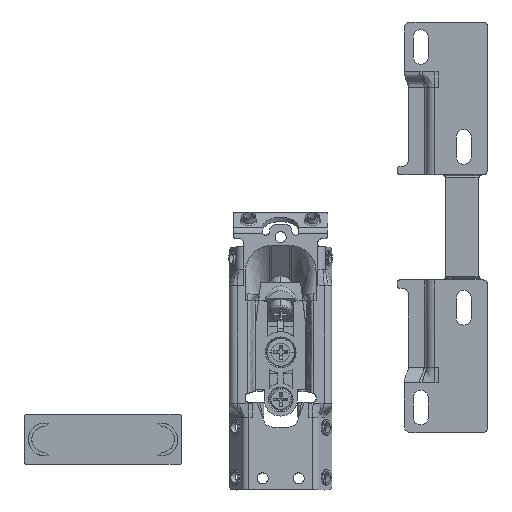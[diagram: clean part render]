
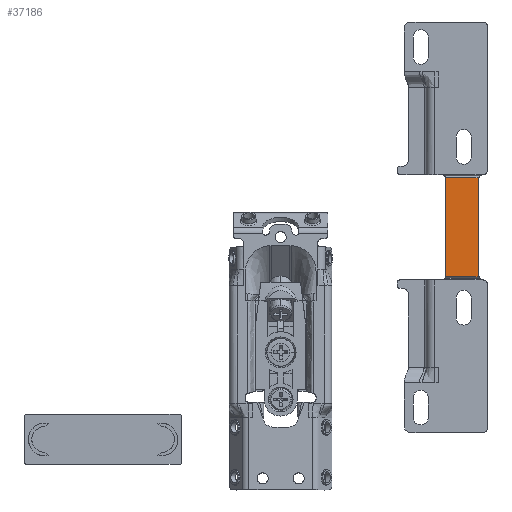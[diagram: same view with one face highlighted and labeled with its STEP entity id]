
A CAD part, front view. The second image highlights one B-rep face of the part: STEP entity #37186.
In plain terms, the highlighted free-form (B-spline) face has degree [1, 1] with [2, 2] control points.
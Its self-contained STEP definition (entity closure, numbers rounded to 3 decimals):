
#1617 = DIRECTION ( 'NONE',  ( 0., 0., -1. ) ) ;
#2472 = VECTOR ( 'NONE', #11806, 1000. ) ;
#2647 = LINE ( 'NONE', #54794, #33639 ) ;
#4798 = ORIENTED_EDGE ( 'NONE', *, *, #54387, .F. ) ;
#5734 = CARTESIAN_POINT ( 'NONE',  ( -3., 0., 91.5 ) ) ;
#6445 = CARTESIAN_POINT ( 'NONE',  ( -3., 0., 91.5 ) ) ;
#6690 = CARTESIAN_POINT ( 'NONE',  ( -2.728, 0., 55.488 ) ) ;
#6966 = DIRECTION ( 'NONE',  ( 0., -1., 0. ) ) ;
#7508 = CARTESIAN_POINT ( 'NONE',  ( -2.97, 0., 56.2 ) ) ;
#7912 = EDGE_CURVE ( 'NONE', #10437, #60567, #61943, .T. ) ;
#10437 = VERTEX_POINT ( 'NONE', #5734 ) ;
#10584 = CARTESIAN_POINT ( 'NONE',  ( -3., 0., 56.5 ) ) ;
#11116 = CARTESIAN_POINT ( 'NONE',  ( -1.5, 0., 91.5 ) ) ;
#11806 = DIRECTION ( 'NONE',  ( 0., 0., 1. ) ) ;
#13644 = CARTESIAN_POINT ( 'NONE',  ( -15., 0., 91.5 ) ) ;
#13870 = ORIENTED_EDGE ( 'NONE', *, *, #20895, .T. ) ;
#13874 = CIRCLE ( 'NONE', #19793, 1.5 ) ;
#15178 = ORIENTED_EDGE ( 'NONE', *, *, #38692, .F. ) ;
#15340 = CIRCLE ( 'NONE', #17759, 1.5 ) ;
#15517 = DIRECTION ( 'NONE',  ( 0., -1., 0. ) ) ;
#17050 = VECTOR ( 'NONE', #40409, 1000. ) ;
#17192 = B_SPLINE_SURFACE_WITH_KNOTS ( 'NONE', 1, 1, ( 
 ( #57029, #40376 ),
 ( #6690, #29250 ) ),
 .UNSPECIFIED., .F., .F., .F.,
 ( 2, 2 ),
 ( 2, 2 ),
 ( 6.728, 19.272 ),
 ( 55.488, 92.512 ),
 .UNSPECIFIED. ) ;
#17759 = AXIS2_PLACEMENT_3D ( 'NONE', #63147, #27611, #45063 ) ;
#19793 = AXIS2_PLACEMENT_3D ( 'NONE', #40873, #57914, #69732 ) ;
#20895 = EDGE_CURVE ( 'NONE', #53491, #55887, #72576, .T. ) ;
#20970 = ORIENTED_EDGE ( 'NONE', *, *, #44749, .F. ) ;
#21233 = AXIS2_PLACEMENT_3D ( 'NONE', #11116, #6966, #67742 ) ;
#23378 = ORIENTED_EDGE ( 'NONE', *, *, #32625, .F. ) ;
#24566 = VECTOR ( 'NONE', #1617, 1000. ) ;
#26876 = EDGE_CURVE ( 'NONE', #42260, #64015, #15340, .T. ) ;
#27611 = DIRECTION ( 'NONE',  ( 0., -1., 0. ) ) ;
#28317 = CIRCLE ( 'NONE', #21233, 1.5 ) ;
#29250 = CARTESIAN_POINT ( 'NONE',  ( -2.728, 0., 92.512 ) ) ;
#29338 = CARTESIAN_POINT ( 'NONE',  ( -15., 0., 56.5 ) ) ;
#30193 = VERTEX_POINT ( 'NONE', #13644 ) ;
#30386 = CARTESIAN_POINT ( 'NONE',  ( -15.03, 0., 56.2 ) ) ;
#32625 = EDGE_CURVE ( 'NONE', #60567, #58137, #13874, .T. ) ;
#33610 = CARTESIAN_POINT ( 'NONE',  ( -2.97, 0., 91.8 ) ) ;
#33639 = VECTOR ( 'NONE', #49255, 1000. ) ;
#35047 = AXIS2_PLACEMENT_3D ( 'NONE', #59919, #15517, #44377 ) ;
#35157 = CARTESIAN_POINT ( 'NONE',  ( -15.03, 0., 91.8 ) ) ;
#37186 = ADVANCED_FACE ( 'NONE', ( #62936 ), #17192, .T. ) ;
#38692 = EDGE_CURVE ( 'NONE', #64015, #30193, #39915, .T. ) ;
#39915 = LINE ( 'NONE', #62487, #2472 ) ;
#40376 = CARTESIAN_POINT ( 'NONE',  ( -15.272, 0., 92.512 ) ) ;
#40409 = DIRECTION ( 'NONE',  ( -1., 0., 0. ) ) ;
#40732 = ORIENTED_EDGE ( 'NONE', *, *, #63224, .F. ) ;
#40873 = CARTESIAN_POINT ( 'NONE',  ( -1.5, 0., 56.5 ) ) ;
#42260 = VERTEX_POINT ( 'NONE', #30386 ) ;
#44377 = DIRECTION ( 'NONE',  ( 1., 0., 0. ) ) ;
#44749 = EDGE_CURVE ( 'NONE', #58137, #42260, #2647, .T. ) ;
#45063 = DIRECTION ( 'NONE',  ( 0.98, 0., -0.2 ) ) ;
#49255 = DIRECTION ( 'NONE',  ( -1., 0., 0. ) ) ;
#53491 = VERTEX_POINT ( 'NONE', #33610 ) ;
#54387 = EDGE_CURVE ( 'NONE', #30193, #55887, #59847, .T. ) ;
#54794 = CARTESIAN_POINT ( 'NONE',  ( -2.97, 0., 56.2 ) ) ;
#55592 = CARTESIAN_POINT ( 'NONE',  ( -2.97, 0., 91.8 ) ) ;
#55887 = VERTEX_POINT ( 'NONE', #35157 ) ;
#57029 = CARTESIAN_POINT ( 'NONE',  ( -15.272, 0., 55.488 ) ) ;
#57914 = DIRECTION ( 'NONE',  ( 0., -1., 0. ) ) ;
#58137 = VERTEX_POINT ( 'NONE', #7508 ) ;
#59847 = CIRCLE ( 'NONE', #35047, 1.5 ) ;
#59919 = CARTESIAN_POINT ( 'NONE',  ( -16.5, 0., 91.5 ) ) ;
#60123 = ORIENTED_EDGE ( 'NONE', *, *, #26876, .F. ) ;
#60567 = VERTEX_POINT ( 'NONE', #10584 ) ;
#61943 = LINE ( 'NONE', #6445, #24566 ) ;
#62487 = CARTESIAN_POINT ( 'NONE',  ( -15., 0., 56.5 ) ) ;
#62936 = FACE_OUTER_BOUND ( 'NONE', #72500, .T. ) ;
#63147 = CARTESIAN_POINT ( 'NONE',  ( -16.5, 0., 56.5 ) ) ;
#63224 = EDGE_CURVE ( 'NONE', #53491, #10437, #28317, .T. ) ;
#64015 = VERTEX_POINT ( 'NONE', #29338 ) ;
#67742 = DIRECTION ( 'NONE',  ( -0.98, 0., 0.2 ) ) ;
#69732 = DIRECTION ( 'NONE',  ( -1., 0., 0. ) ) ;
#70180 = ORIENTED_EDGE ( 'NONE', *, *, #7912, .F. ) ;
#72500 = EDGE_LOOP ( 'NONE', ( #15178, #60123, #20970, #23378, #70180, #40732, #13870, #4798 ) ) ;
#72576 = LINE ( 'NONE', #55592, #17050 ) ;
